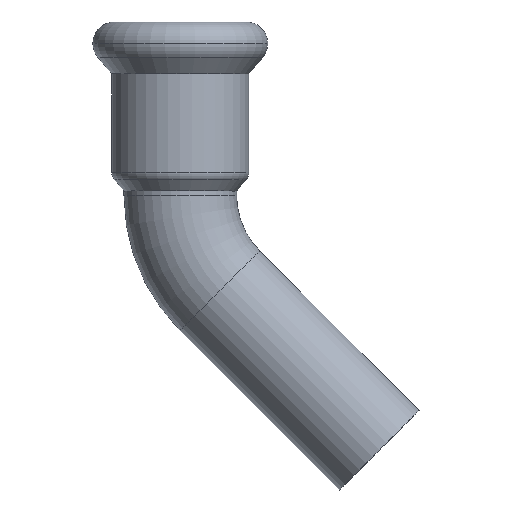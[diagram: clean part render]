
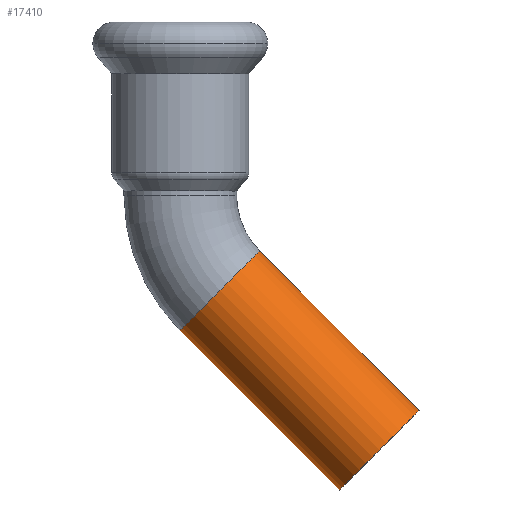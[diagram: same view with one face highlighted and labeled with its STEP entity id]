
A CAD part, top view. The second image highlights one B-rep face of the part: STEP entity #17410.
In plain terms, the highlighted cylindrical face has radius 7.5 mm (diameter 15 mm), a partial arc.
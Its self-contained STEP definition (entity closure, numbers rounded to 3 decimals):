
#14520=CARTESIAN_POINT('',(-90.921,25.637,0.));
#14530=DIRECTION('',(0.707,-0.707,0.));
#14540=DIRECTION('',(-0.707,-0.707,0.));
#14550=AXIS2_PLACEMENT_3D('',#14520,#14530,#14540);
#14560=CIRCLE('',#14550,7.5);
#14590=CARTESIAN_POINT('',(-85.617,30.94,
0.));
#14600=VERTEX_POINT('',#14590);
#14770=CARTESIAN_POINT('',(-96.224,20.333,
0.));
#14780=VERTEX_POINT('',#14770);
#15250=CARTESIAN_POINT('',(-90.921,25.637,0.));
#15260=DIRECTION('',(-0.707,0.707,0.));
#15270=DIRECTION('',(-0.707,-0.707,0.));
#15280=AXIS2_PLACEMENT_3D('',#15250,#15260,#15270);
#15290=CYLINDRICAL_SURFACE('',#15280,7.5);
#15300=CARTESIAN_POINT('',(-85.617,30.94,
0.));
#15310=DIRECTION('',(-0.707,0.707,0.));
#15320=VECTOR('',#15310,1.);
#15330=LINE('',#15300,#15320);
#15340=CARTESIAN_POINT('',(-64.373,9.696,
0.));
#15350=VERTEX_POINT('',#15340);
#15360=EDGE_CURVE('',#15350,#14600,#15330,.T.);
#15400=CARTESIAN_POINT('',(-96.224,20.333,0.));
#15410=DIRECTION('',(-0.707,0.707,0.));
#15420=VECTOR('',#15410,1.);
#15430=LINE('',#15400,#15420);
#15440=CARTESIAN_POINT('',(-74.98,-0.911,0.));
#15450=VERTEX_POINT('',#15440);
#15460=EDGE_CURVE('',#15450,#14780,#15430,.T.);
#15480=CARTESIAN_POINT('',(-69.676,4.392,0.));
#15490=DIRECTION('',(-0.707,0.707,0.));
#15500=DIRECTION('',(-0.707,-0.707,0.));
#15510=AXIS2_PLACEMENT_3D('',#15480,#15490,#15500);
#15520=CIRCLE('',#15510,7.5);
#15630=EDGE_CURVE('',#15450,#15350,#15520,.T.);
#16860=EDGE_CURVE('',#14600,#14780,#14560,.T.);
#17350=ORIENTED_EDGE('',*,*,#16860,.T.);
#17360=ORIENTED_EDGE('',*,*,#15360,.T.);
#17370=ORIENTED_EDGE('',*,*,#15630,.T.);
#17380=ORIENTED_EDGE('',*,*,#15460,.F.);
#17390=EDGE_LOOP('',(#17380,#17370,#17360,#17350));
#17400=FACE_OUTER_BOUND('',#17390,.T.);
#17410=ADVANCED_FACE('',(#17400),#15290,.T.);
